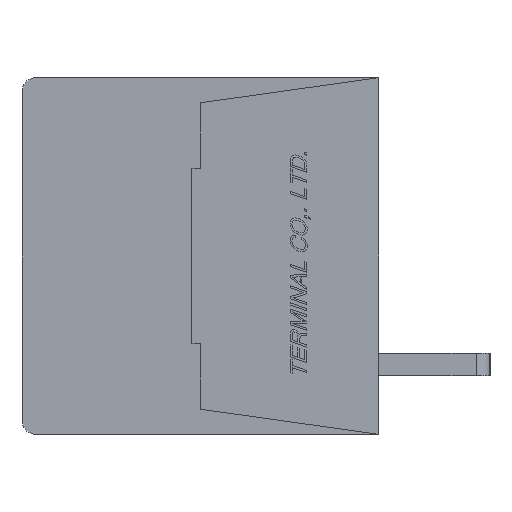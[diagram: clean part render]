
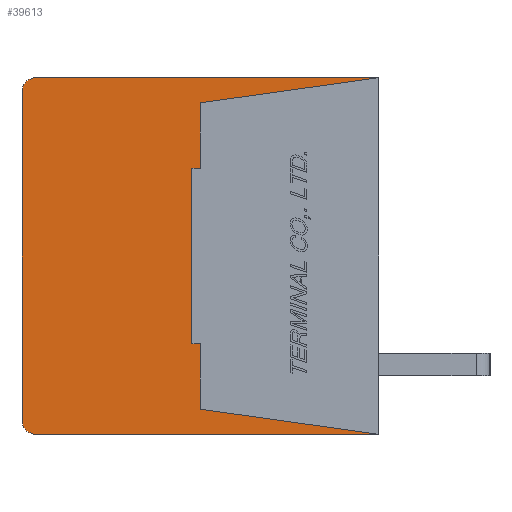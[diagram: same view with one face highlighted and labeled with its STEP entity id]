
A CAD part, left-side view. The second image highlights one B-rep face of the part: STEP entity #39613.
In plain terms, the highlighted planar face has unit normal (-1, 0, 0).
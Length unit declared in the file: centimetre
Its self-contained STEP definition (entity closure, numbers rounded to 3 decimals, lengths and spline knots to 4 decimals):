
#2025=CIRCLE('',#67868,0.05);
#2026=CIRCLE('',#67871,0.05);
#3481=VERTEX_POINT('',#54973);
#3482=VERTEX_POINT('',#54975);
#3483=VERTEX_POINT('',#54979);
#3484=VERTEX_POINT('',#54983);
#3485=VERTEX_POINT('',#54987);
#3486=VERTEX_POINT('',#54991);
#3487=VERTEX_POINT('',#54995);
#3488=VERTEX_POINT('',#54997);
#3489=VERTEX_POINT('',#54999);
#3490=VERTEX_POINT('',#55001);
#3491=VERTEX_POINT('',#55003);
#3492=VERTEX_POINT('',#55005);
#7676=VECTOR('',#45919,1.);
#7680=VECTOR('',#45928,1.);
#7683=VECTOR('',#45936,1.);
#7684=VECTOR('',#45938,1.);
#7685=VECTOR('',#45939,1.);
#7686=VECTOR('',#45940,1.);
#7687=VECTOR('',#45941,1.);
#7688=VECTOR('',#45942,1.);
#7689=VECTOR('',#45943,1.);
#7690=VECTOR('',#45944,1.);
#12337=LINE('',#54974,#7676);
#12341=LINE('',#54984,#7680);
#12344=LINE('',#54992,#7683);
#12345=LINE('',#54994,#7684);
#12346=LINE('',#54996,#7685);
#12347=LINE('',#54998,#7686);
#12348=LINE('',#55000,#7687);
#12349=LINE('',#55002,#7688);
#12350=LINE('',#55004,#7689);
#12351=LINE('',#55006,#7690);
#17516=EDGE_CURVE('',#3482,#3481,#12337,.T.);
#17519=EDGE_CURVE('',#3483,#3481,#2025,.T.);
#17521=EDGE_CURVE('',#3483,#3484,#12341,.T.);
#17523=EDGE_CURVE('',#3485,#3484,#2026,.T.);
#17525=EDGE_CURVE('',#3485,#3486,#12344,.T.);
#17526=EDGE_CURVE('',#3487,#3482,#12345,.T.);
#17527=EDGE_CURVE('',#3486,#3488,#12346,.T.);
#17528=EDGE_CURVE('',#3488,#3489,#12347,.T.);
#17529=EDGE_CURVE('',#3489,#3490,#12348,.T.);
#17530=EDGE_CURVE('',#3490,#3491,#12349,.T.);
#17531=EDGE_CURVE('',#3491,#3492,#12350,.T.);
#17532=EDGE_CURVE('',#3492,#3487,#12351,.T.);
#25508=ORIENTED_EDGE('',*,*,#17526,.T.);
#25509=ORIENTED_EDGE('',*,*,#17516,.T.);
#25510=ORIENTED_EDGE('',*,*,#17519,.F.);
#25511=ORIENTED_EDGE('',*,*,#17521,.T.);
#25512=ORIENTED_EDGE('',*,*,#17523,.F.);
#25513=ORIENTED_EDGE('',*,*,#17525,.T.);
#25514=ORIENTED_EDGE('',*,*,#17527,.T.);
#25515=ORIENTED_EDGE('',*,*,#17528,.T.);
#25516=ORIENTED_EDGE('',*,*,#17529,.T.);
#25517=ORIENTED_EDGE('',*,*,#17530,.T.);
#25518=ORIENTED_EDGE('',*,*,#17531,.T.);
#25519=ORIENTED_EDGE('',*,*,#17532,.T.);
#34485=EDGE_LOOP('',(#25508,#25509,#25510,#25511,#25512,#25513,#25514,#25515,
#25516,#25517,#25518,#25519));
#37104=FACE_BOUND('',#34485,.T.);
#39613=ADVANCED_FACE('',(#37104),#41792,.F.);
#41792=PLANE('',#67873);
#45919=DIRECTION('',(0.,1.,0.));
#45924=DIRECTION('',(1.,0.,0.));
#45925=DIRECTION('',(0.,0.,-0.05));
#45928=DIRECTION('',(0.,0.,-1.));
#45932=DIRECTION('',(1.,0.,0.));
#45933=DIRECTION('',(0.,0.,-0.05));
#45936=DIRECTION('',(0.,-1.,0.));
#45937=DIRECTION('',(1.,0.,0.));
#45938=DIRECTION('',(0.,-0.99,0.139));
#45939=DIRECTION('',(0.,0.99,0.139));
#45940=DIRECTION('',(0.,0.,1.));
#45941=DIRECTION('',(0.,1.,0.));
#45942=DIRECTION('',(0.,0.,1.));
#45943=DIRECTION('',(0.,-1.,0.));
#45944=DIRECTION('',(0.,0.,1.));
#54973=CARTESIAN_POINT('',(-0.889,1.23,0.64));
#54974=CARTESIAN_POINT('',(-0.889,0.,0.64));
#54975=CARTESIAN_POINT('',(-0.889,0.,0.64));
#54979=CARTESIAN_POINT('',(-0.889,1.28,0.59));
#54980=CARTESIAN_POINT('',(-0.889,1.23,0.59));
#54983=CARTESIAN_POINT('',(-0.889,1.28,-0.59));
#54984=CARTESIAN_POINT('',(-0.889,1.28,0.59));
#54987=CARTESIAN_POINT('',(-0.889,1.23,-0.64));
#54988=CARTESIAN_POINT('',(-0.889,1.23,-0.59));
#54991=CARTESIAN_POINT('',(-0.889,0.,-0.64));
#54992=CARTESIAN_POINT('',(-0.889,1.23,-0.64));
#54993=CARTESIAN_POINT('',(-0.889,0.6345,0.));
#54994=CARTESIAN_POINT('',(-0.889,0.64,0.55));
#54995=CARTESIAN_POINT('',(-0.889,0.64,0.55));
#54996=CARTESIAN_POINT('',(-0.889,0.,-0.64));
#54997=CARTESIAN_POINT('',(-0.889,0.64,-0.55));
#54998=CARTESIAN_POINT('',(-0.889,0.64,-0.55));
#54999=CARTESIAN_POINT('',(-0.889,0.64,-0.315));
#55000=CARTESIAN_POINT('',(-0.889,0.64,-0.315));
#55001=CARTESIAN_POINT('',(-0.889,0.67,-0.315));
#55002=CARTESIAN_POINT('',(-0.889,0.67,-0.315));
#55003=CARTESIAN_POINT('',(-0.889,0.67,0.315));
#55004=CARTESIAN_POINT('',(-0.889,0.67,0.315));
#55005=CARTESIAN_POINT('',(-0.889,0.64,0.315));
#55006=CARTESIAN_POINT('',(-0.889,0.64,0.315));
#67868=AXIS2_PLACEMENT_3D('',#54980,#45924,#45925);
#67871=AXIS2_PLACEMENT_3D('',#54988,#45932,#45933);
#67873=AXIS2_PLACEMENT_3D('',#54993,#45937,$);
